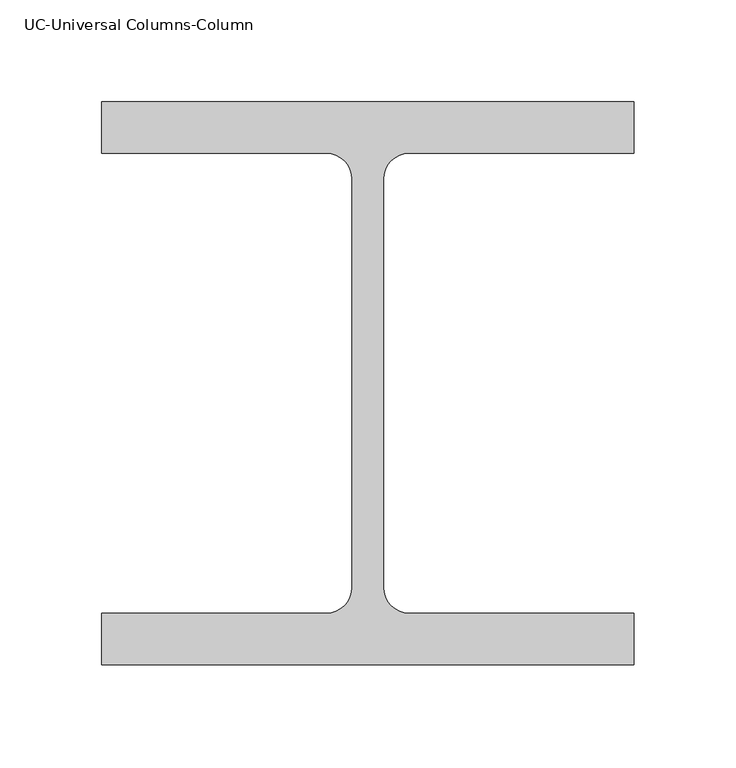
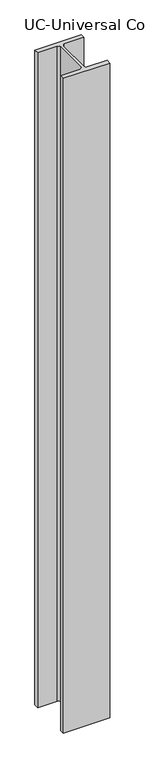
"""IFC4 building model written with IfcOpenShell, lengths in millimetres: column geometry."""

from ifc_helpers import new_model, si_unit, point, frame, frame_2d, origin, place, context, project, spatial, polyline, circle_curve, trimmed, segment, composite_curve, outline, extrude, source, transform, mapped, element, save


def uc_universal_columns_column_e63b660d(model_context):
    return source(origin(), model_context, "Body", "SweptSolid", [
        extrude(outline(composite_curve([segment(polyline([(130.65, 138.15), (130.65, 112.85), (20.35, 112.85)]), True, "CONTINUOUS"), segment(trimmed(circle_curve(frame_2d((20.35, 100.15)), 12.7), [point((20.35, 112.85))], [point((7.65, 100.15))], True, "CARTESIAN"), True, "CONTINUOUS"), segment(polyline([(7.65, 100.15), (7.65, -100.15)]), True, "CONTINUOUS"), segment(trimmed(circle_curve(frame_2d((20.35, -100.15)), 12.7), [point((7.65, -100.15))], [point((20.35, -112.85))], True, "CARTESIAN"), True, "CONTINUOUS"), segment(polyline([(20.35, -112.85), (130.65, -112.85), (130.65, -138.15), (-130.65, -138.15), (-130.65, -112.85), (-20.35, -112.85)]), True, "CONTINUOUS"), segment(trimmed(circle_curve(frame_2d((-20.35, -100.15)), 12.7), [point((-20.35, -112.85))], [point((-7.65, -100.15))], True, "CARTESIAN"), True, "CONTINUOUS"), segment(polyline([(-7.65, -100.15), (-7.65, 100.15)]), True, "CONTINUOUS"), segment(trimmed(circle_curve(frame_2d((-20.35, 100.15)), 12.7), [point((-7.65, 100.15))], [point((-20.35, 112.85))], True, "CARTESIAN"), True, "CONTINUOUS"), segment(polyline([(-20.35, 112.85), (-130.65, 112.85), (-130.65, 138.15), (130.65, 138.15)]), True, "CONTINUOUS")], self_intersect=False)), frame((0.0, 0.0, 4595.0), z_axis=(0.0, 0.0, 1.0), x_axis=(1.0, 0.0, 0.0)), (0.0, 0.0, 1.0), 3900.0),
    ])


if __name__ == "__main__":
    model = new_model("IFC4")
    model_context = context("Model", 3, world=origin())
    ifc_project = project(units=[si_unit("LENGTHUNIT", "METRE", prefix="MILLI")], contexts=[model_context])
    site = spatial("IfcSite", under=ifc_project)
    building = spatial("IfcBuilding", under=site)
    placement = place(None, origin())
    uc_universal_columns_column_shape = uc_universal_columns_column_e63b660d(model_context)
    element("IfcColumn", 1, ObjectType="UC-Universal Columns-Column : UC 10\" x 10\" x 5 1/2\"", at=placement, inside=building, context=model_context, shape_type="MappedRepresentation", body=[
        mapped(uc_universal_columns_column_shape, transform((0.0, 0.0, 0.0), x_axis=(1.0, 0.0, 0.0), y_axis=(0.0, 1.0, 0.0), z_axis=(0.0, 0.0, 1.0))),
    ])
    save(model, "model.ifc")
